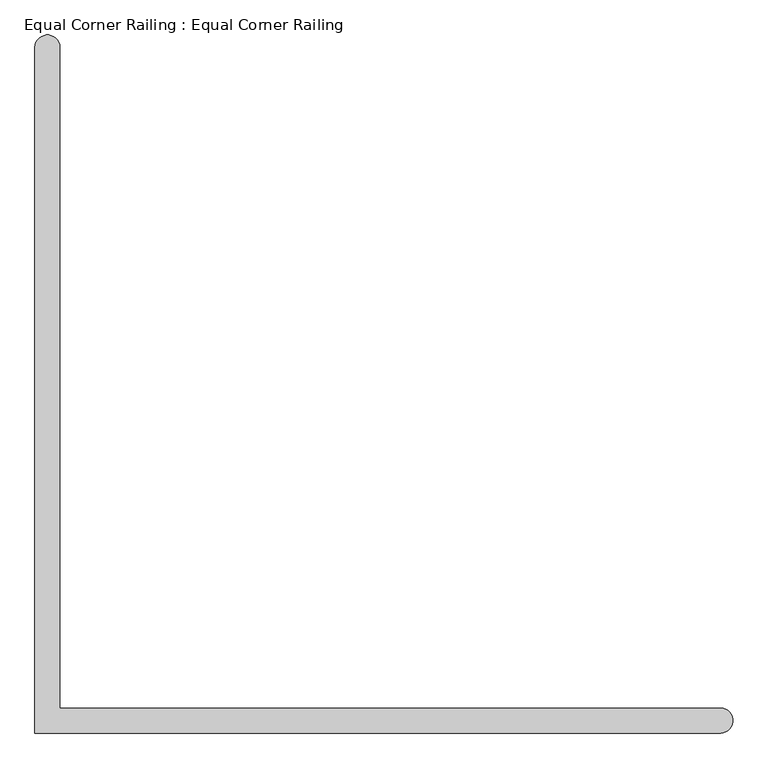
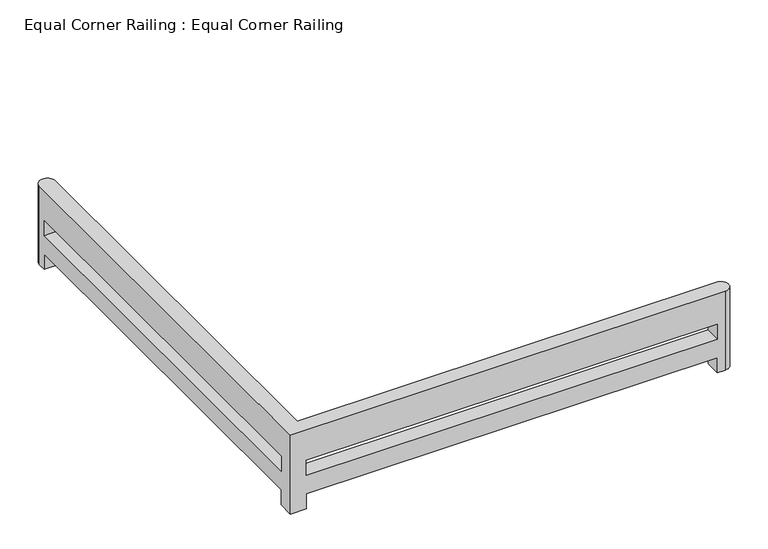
"""IFC4 building model written with IfcOpenShell, lengths in millimetres: railing geometry, Equal Corner Railing : Equal Corner Railing."""

from ifc_helpers import new_model, si_unit, frame, origin, place, context, project, spatial, circle_curve, source, transform, mapped, element, save
from ifc_brep_helpers import plane_surface, cylinder_surface, advanced_brep


def equal_corner_railing_equal_corner_railing_5b2954d8(model_context):
    return source(origin(), model_context, "Body", "AdvancedBrep", [
        advanced_brep(
        [(-101.6, 5473.7, 1066.8), (-101.6, -101.6, 1066.8), (5473.7, -101.6, 1066.8), (5473.7, 101.6, 1066.8), (101.6, 101.6, 1066.8), (101.6, 5473.7, 1066.8), (-101.6, 5473.7, 0.0), (101.6, 5473.7, 0.0), (101.6, 5372.1, 0.0), (-101.6, 5372.1, 0.0), (5473.7, 101.6, 0.0), (5473.7, -101.6, 0.0), (5372.1, -101.6, 0.0), (5372.1, 101.6, 0.0), (101.6, -101.6, 0.0), (-101.6, -101.6, 0.0), (-101.6, 101.6, 0.0), (101.6, 101.6, 0.0), (-101.6, 5372.1, 203.2), (-101.6, 101.6, 203.2), (-101.6, 5372.1, 660.4), (-101.6, 101.6, 660.4), (-101.6, 101.6, 457.2), (-101.6, 5372.1, 457.2), (101.6, -101.6, 203.2), (5372.1, -101.6, 203.2), (101.6, -101.6, 660.4), (5372.1, -101.6, 660.4), (5372.1, -101.6, 457.2), (101.6, -101.6, 457.2), (5372.1, 101.6, 203.2), (101.6, 101.6, 203.2), (101.6, 101.6, 457.2), (5372.1, 101.6, 457.2), (5372.1, 101.6, 660.4), (101.6, 101.6, 660.4), (101.6, 5372.1, 660.4), (101.6, 5372.1, 457.2), (101.6, 5372.1, 203.2)],
        [
            (0, 1),
            (1, 2),
            (2, 3, circle_curve(frame((5473.7, 0.0, 1066.8), z_axis=(0.0, 0.0, 1.0), x_axis=(1.0, 0.0, 0.0)), 101.6)),
            (3, 4),
            (4, 5),
            (5, 0, circle_curve(frame((0.0, 5473.7, 1066.8), z_axis=(0.0, 0.0, 1.0), x_axis=(1.0, 0.0, 0.0)), 101.6)),
            (6, 7, circle_curve(frame((0.0, 5473.7, 0.0), z_axis=(0.0, 0.0, -1.0), x_axis=(1.0, 0.0, 0.0)), 101.6)),
            (7, 8),
            (8, 9),
            (9, 6),
            (10, 11, circle_curve(frame((5473.7, 0.0, 0.0), z_axis=(0.0, 0.0, -1.0), x_axis=(1.0, 0.0, 0.0)), 101.6)),
            (11, 12),
            (12, 13),
            (13, 10),
            (14, 15),
            (15, 16),
            (16, 17),
            (17, 14),
            (0, 6),
            (9, 18),
            (18, 19),
            (19, 16),
            (15, 1),
            (20, 21),
            (21, 22),
            (22, 23),
            (23, 20),
            (14, 24),
            (24, 25),
            (25, 12),
            (11, 2),
            (26, 27),
            (27, 28),
            (28, 29),
            (29, 26),
            (10, 3),
            (13, 30),
            (30, 31),
            (31, 32),
            (32, 33),
            (33, 34),
            (34, 35),
            (35, 4),
            (35, 36),
            (36, 37),
            (37, 32),
            (31, 38),
            (38, 8),
            (7, 5),
            (31, 24),
            (17, 31),
            (35, 26),
            (29, 32),
            (32, 35),
            (30, 25),
            (34, 27),
            (28, 33),
            (31, 19),
            (18, 38),
            (35, 21),
            (20, 36),
            (32, 22),
            (37, 23),
        ],
        [
            plane_surface(frame((-101.6, 0.0, 1066.8), z_axis=(0.0, 0.0, 1.0), x_axis=(0.0, -1.0, 0.0))),
            plane_surface(frame((-101.6, 0.0, 0.0), z_axis=(0.0, 0.0, -1.0), x_axis=(0.0, 1.0, 0.0))),
            plane_surface(frame((-101.6, 5473.7, 1066.8), z_axis=(-1.0, 0.0, 0.0), x_axis=(0.0, 0.0, -1.0))),
            plane_surface(frame((-101.6, -101.6, 1066.8), z_axis=(0.0, -1.0, 0.0), x_axis=(0.0, 0.0, -1.0))),
            cylinder_surface(frame((5473.7, 0.0, 0.0), z_axis=(0.0, 0.0, 1.0), x_axis=(1.0, 0.0, 0.0)), 101.6),
            plane_surface(frame((5473.7, 101.6, 1066.8), z_axis=(0.0, 1.0, 0.0), x_axis=(0.0, 0.0, -1.0))),
            plane_surface(frame((101.6, 101.6, 1066.8), z_axis=(1.0, 0.0, 0.0), x_axis=(0.0, 0.0, -1.0))),
            cylinder_surface(frame((0.0, 5473.7, 0.0), z_axis=(0.0, 0.0, 1.0), x_axis=(1.0, 0.0, 0.0)), 101.6),
            plane_surface(frame((5372.1, -101.6, 203.2), z_axis=(0.0, 0.0, -1.0), x_axis=(0.0, 1.0, 0.0))),
            plane_surface(frame((5372.1, -101.6, 0.0), z_axis=(-1.0, 0.0, 0.0), x_axis=(0.0, 1.0, 0.0))),
            plane_surface(frame((5372.1, -101.6, 660.4), z_axis=(0.0, 0.0, -1.0), x_axis=(0.0, 1.0, 0.0))),
            plane_surface(frame((101.6, -101.6, 457.2), z_axis=(0.0, 0.0, 1.0), x_axis=(0.0, 1.0, 0.0))),
            plane_surface(frame((5372.1, -101.6, 457.2), z_axis=(-1.0, 0.0, 0.0), x_axis=(0.0, 1.0, 0.0))),
            plane_surface(frame((101.6, 5372.1, 203.2), z_axis=(0.0, 0.0, -1.0), x_axis=(-1.0, 0.0, 0.0))),
            plane_surface(frame((101.6, 101.6, 203.2), z_axis=(0.0, 1.0, 0.0), x_axis=(-1.0, 0.0, 0.0))),
            plane_surface(frame((101.6, 5372.1, 0.0), z_axis=(0.0, -1.0, 0.0), x_axis=(-1.0, 0.0, 0.0))),
            plane_surface(frame((101.6, 5372.1, 660.4), z_axis=(0.0, 0.0, -1.0), x_axis=(-1.0, 0.0, 0.0))),
            plane_surface(frame((101.6, 101.6, 660.4), z_axis=(0.0, 1.0, 0.0), x_axis=(-1.0, 0.0, 0.0))),
            plane_surface(frame((101.6, 101.6, 457.2), z_axis=(0.0, 0.0, 1.0), x_axis=(-1.0, 0.0, 0.0))),
            plane_surface(frame((101.6, 5372.1, 457.2), z_axis=(0.0, -1.0, 0.0), x_axis=(-1.0, 0.0, 0.0))),
        ],
        [
            (0, [[1, 2, 3, 4, 5, 6]]),
            (1, [[7, 8, 9, 10]]),
            (1, [[11, 12, 13, 14]]),
            (1, [[15, 16, 17, 18]]),
            (2, [[-1, 19, -10, 20, 21, 22, -16, 23], [24, 25, 26, 27]]),
            (3, [[-2, -23, -15, 28, 29, 30, -12, 31], [32, 33, 34, 35]]),
            (4, [[-3, -31, -11, 36]]),
            (5, [[-4, -36, -14, 37, 38, 39, 40, 41, 42, 43]]),
            (6, [[-5, -43, 44, 45, 46, -39, 47, 48, -8, 49]]),
            (6, [[50, -28, -18, 51]]),
            (6, [[52, -35, 53, 54]]),
            (7, [[-6, -49, -7, -19]]),
            (8, [[-50, -38, 55, -29]]),
            (9, [[-55, -37, -13, -30]]),
            (10, [[-52, -42, 56, -32]]),
            (11, [[-53, -34, 57, -40]]),
            (12, [[-56, -41, -57, -33]]),
            (13, [[58, -21, 59, -47]]),
            (14, [[-58, -51, -17, -22]]),
            (15, [[-59, -20, -9, -48]]),
            (16, [[60, -24, 61, -44]]),
            (17, [[-60, -54, 62, -25]]),
            (18, [[-62, -46, 63, -26]]),
            (19, [[-61, -27, -63, -45]]),
        ],
    ),
    ])


if __name__ == "__main__":
    model = new_model("IFC4")
    model_context = context("Model", 3, world=origin())
    ifc_project = project(units=[si_unit("LENGTHUNIT", "METRE", prefix="MILLI")], contexts=[model_context])
    site = spatial("IfcSite", under=ifc_project)
    building = spatial("IfcBuilding", under=site)
    placement = place(None, origin())
    equal_corner_railing_equal_corner_railing_shape = equal_corner_railing_equal_corner_railing_5b2954d8(model_context)
    element("IfcRailing", 1, ObjectType="Equal Corner Railing : Equal Corner Railing", at=placement, inside=building, context=model_context, shape_type="MappedRepresentation", body=[
        mapped(equal_corner_railing_equal_corner_railing_shape, transform((0.0, 0.0, 0.0), x_axis=(1.0, 0.0, 0.0), y_axis=(0.0, 1.0, 0.0), z_axis=(0.0, 0.0, 1.0))),
    ])
    save(model, "model.ifc")
